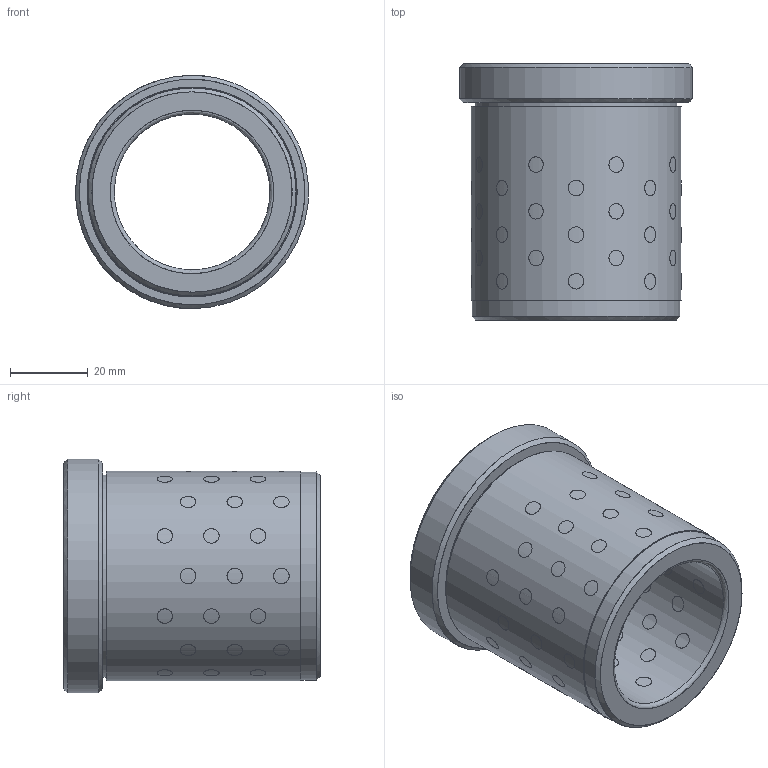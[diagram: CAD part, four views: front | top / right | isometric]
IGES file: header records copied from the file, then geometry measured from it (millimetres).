
Start section: Missler Software BP 521, 31674 Labege Cedex, France Tel   : +33 (0)5 61 00 03 00 Fax   : +33 (0)5 61 00 03 03 Email : sup.topsolid@topsolid.com
Global section: file name: D:\Cuma\D30.05\D30.05_4066.igs; native system: TopSolid v605250 Missler Software; preprocessor: IGES preprocessor v100000; date: 030120.204803; units: millimetre
Bounding box: 59.94 x 66 x 60 mm (x, y, z)
Surface area: 29904.4 mm2 (no closed solid volume)
Topology: 0 solids, 0 shells, 207 faces, 4068 edges, 3932 vertices
Faces by surface type: bspline 207
